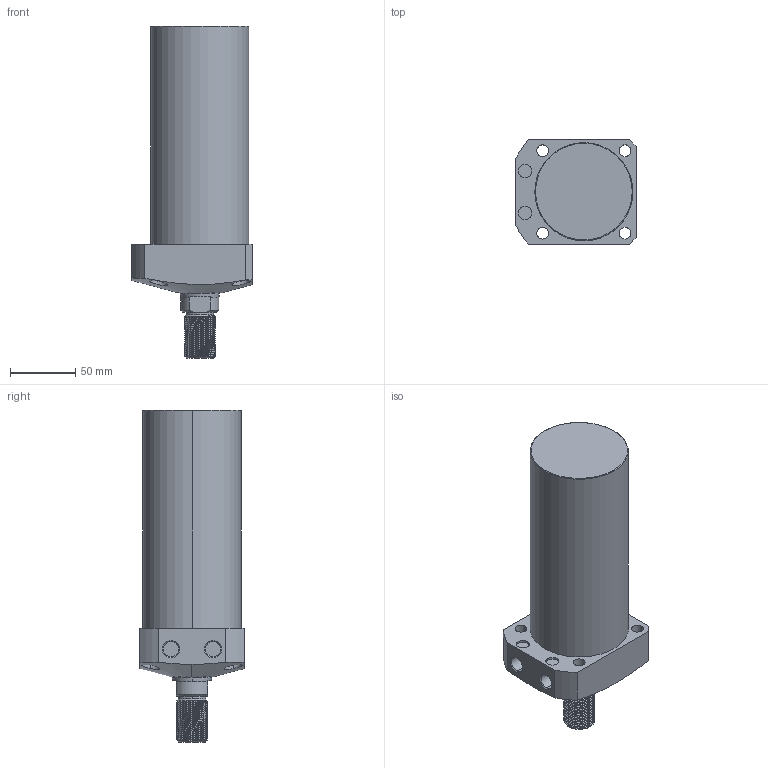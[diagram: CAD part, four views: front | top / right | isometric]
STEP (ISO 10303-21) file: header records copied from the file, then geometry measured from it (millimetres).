
FILE_DESCRIPTION (( 'STEP AP203' ), '1' );
FILE_NAME ('CLL-075CT-130.STEP', '2020-01-08T12:08:33', ( '' ), ( '' ), 'SwSTEP 2.0', 'SolidWorks 2015', '' );
FILE_SCHEMA (( 'CONFIG_CONTROL_DESIGN' ));
Length unit declared in the file: millimetre
Products named in the file (1): CLL-075CT-130
Bounding box: 92 x 80 x 254 mm (x, y, z)
Volume: 979002.5 mm3; surface area: 74185.7 mm2
Topology: 1 solids, 1 shells, 121 faces, 310 edges, 202 vertices
Faces by surface type: cylinder 77, plane 23, cone 17, torus 2, bspline 2
Entity records: 6536 total; most frequent: CARTESIAN_POINT 3746, ORIENTED_EDGE 620, DIRECTION 517, EDGE_CURVE 310, AXIS2_PLACEMENT_3D 204, VERTEX_POINT 202, EDGE_LOOP 140, ADVANCED_FACE 121
